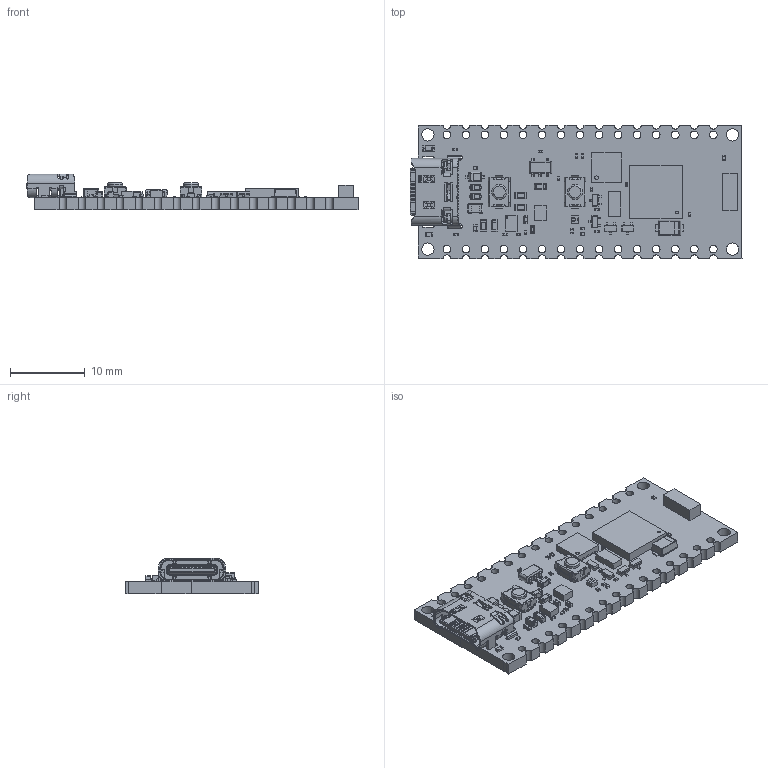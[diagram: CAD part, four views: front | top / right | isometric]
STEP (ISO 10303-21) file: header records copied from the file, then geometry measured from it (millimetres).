
FILE_DESCRIPTION(('Open CASCADE Model'),'2;1');
FILE_NAME('Open CASCADE Shape Model','2026-01-15T12:08:34',('Author'),( 'Open CASCADE'),'Open CASCADE STEP processor 7.5','Open CASCADE 7.5' ,'Unknown');
FILE_SCHEMA(('AUTOMOTIVE_DESIGN { 1 0 10303 214 1 1 1 1 }'));
Length unit declared in the file: millimetre
Products named in the file (108): PCB; Board; Open CASCADE STEP translator 7.5 2.1.1; D4; 8275085184; Body; Open CASCADE STEP translator 7.5 11.1.1; lead; 14022643760; Extruded; D3; D1; SOD323; SOD323-PCB-001; SOD323-LP-001; 14022647440; U2; sot25; C6; CAP-0603; D2; SOD123FL; 8279795424; Open CASCADE STEP translator 7.5 15.1.1; C15; CAP-0201; C14; C13; C12; CAP-0402; C11; R16; RES-0201; Q5; SOT-523; Q4; R15; C10; U5; xGM240S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
Assembly tree (168 placements, depth 6):
  PCB
    Board
      Open CASCADE STEP translator 7.5 2.1.1
    D4
      8275085184
        Body
          Open CASCADE STEP translator 7.5 11.1.1
        lead  x2
      14022643760
        Extruded
    D3
      8275085184
        Body
          Open CASCADE STEP translator 7.5 11.1.1
        lead  x2
      14022643760
        Extruded
    D1
      SOD323
        SOD323-PCB-001
        SOD323-LP-001
      14022647440
        Extruded
    U2
      sot25
    C6
      CAP-0603
    D2
      SOD123FL
        8279795424
          Body
            Open CASCADE STEP translator 7.5 15.1.1
          lead  x2
    C15
      CAP-0201
    C14
      CAP-0603
    C13
      CAP-0603
    C12
      CAP-0402
    C11
      CAP-0603
    R16
      RES-0201
    Q5
      SOT-523
    Q4
      SOT-523
    R15
      RES-0201
    C10
      CAP-0201
    U5
      xGM240S
    Q2
      SOT-523
    Q1
      SOT-523
    Y1
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Bounding box: 44.29 x 17.78 x 4.78 mm (x, y, z)
Volume: 1402.1 mm3; surface area: 2944.5 mm2
Topology: 150 solids, 154 shells, 4604 faces, 11632 edges, 7141 vertices
Faces by surface type: plane 3111, cylinder 1139, bspline 154, sphere 140, cone 46, revolution 8, torus 6
Full cylindrical faces by diameter (mm): 0.07 x1, 0.2 x1, 0.351 x1, 0.45 x2, 0.5 x1, 0.6 x2, 0.8 x2, 1.016 x30, 1.652 x4, 2 x2, 2.05 x2
Entity records: 100641 total; most frequent: CARTESIAN_POINT 17686, ORIENTED_EDGE 13888, DIRECTION 13794, EDGE_CURVE 6945, LINE 5190, VECTOR 5190, VERTEX_POINT 4388, AXIS2_PLACEMENT_3D 4298
